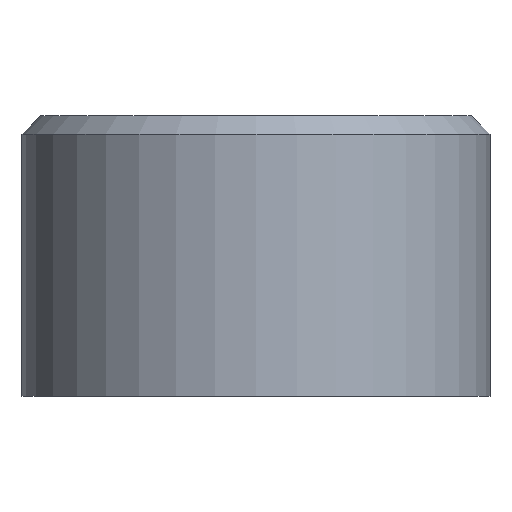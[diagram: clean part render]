
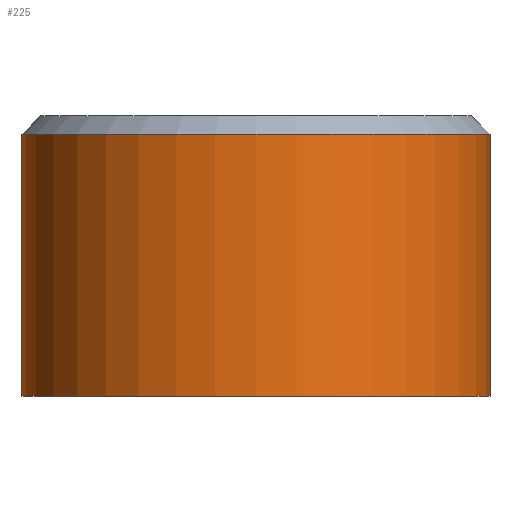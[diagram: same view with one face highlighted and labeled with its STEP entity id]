
A CAD part, front view. The second image highlights one B-rep face of the part: STEP entity #225.
In plain terms, the highlighted cylindrical face has radius 25 mm (diameter 50 mm), a full revolution.
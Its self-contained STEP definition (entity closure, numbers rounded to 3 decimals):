
#27=FACE_BOUND('',#77,.T.);
#34=B_SPLINE_CURVE_WITH_KNOTS('',3,(#384,#385,#386,#387,#388,#389,#390,
#391,#392,#393),.UNSPECIFIED.,.F.,.F.,(4,2,2,2,4),(0.794,0.992,
1.19,1.389,1.587),.UNSPECIFIED.);
#35=B_SPLINE_CURVE_WITH_KNOTS('',3,(#395,#396,#397,#398,#399,#400,#401,
#402,#403,#404,#405,#406,#407,#408,#409,#410,#411,#412,#413),
 .UNSPECIFIED.,.F.,.F.,(4,2,2,2,3,2,2,2,4),(2.381,2.579,
2.778,2.976,3.174,3.373,3.571,
3.77,3.968),.UNSPECIFIED.);
#36=B_SPLINE_CURVE_WITH_KNOTS('',3,(#414,#415,#416,#417,#418,#419,#420,
#421,#422,#423),.UNSPECIFIED.,.F.,.F.,(4,2,2,2,4),(1.587,1.786,
1.984,2.182,2.381),.UNSPECIFIED.);
#40=CYLINDRICAL_SURFACE('',#278,25.);
#58=FACE_OUTER_BOUND('',#76,.T.);
#76=EDGE_LOOP('',(#190,#191,#192,#193,#194));
#77=EDGE_LOOP('',(#195,#196,#197));
#91=LINE('',#450,#100);
#100=VECTOR('',#340,25.);
#110=CIRCLE('',#273,25.);
#112=CIRCLE('',#276,25.);
#113=CIRCLE('',#277,25.);
#120=VERTEX_POINT('',#382);
#121=VERTEX_POINT('',#383);
#122=VERTEX_POINT('',#394);
#127=VERTEX_POINT('',#439);
#129=VERTEX_POINT('',#444);
#130=VERTEX_POINT('',#446);
#139=EDGE_CURVE('',#120,#121,#34,.T.);
#140=EDGE_CURVE('',#122,#120,#35,.T.);
#141=EDGE_CURVE('',#121,#122,#36,.T.);
#149=EDGE_CURVE('',#127,#127,#110,.T.);
#152=EDGE_CURVE('',#129,#130,#112,.T.);
#153=EDGE_CURVE('',#130,#129,#113,.T.);
#154=EDGE_CURVE('',#130,#127,#91,.T.);
#190=ORIENTED_EDGE('',*,*,#152,.F.);
#191=ORIENTED_EDGE('',*,*,#153,.F.);
#192=ORIENTED_EDGE('',*,*,#154,.T.);
#193=ORIENTED_EDGE('',*,*,#149,.F.);
#194=ORIENTED_EDGE('',*,*,#154,.F.);
#195=ORIENTED_EDGE('',*,*,#139,.T.);
#196=ORIENTED_EDGE('',*,*,#141,.T.);
#197=ORIENTED_EDGE('',*,*,#140,.T.);
#225=ADVANCED_FACE('',(#58,#27),#40,.T.);
#273=AXIS2_PLACEMENT_3D('',#440,#327,#328);
#276=AXIS2_PLACEMENT_3D('',#447,#334,#335);
#277=AXIS2_PLACEMENT_3D('',#448,#336,#337);
#278=AXIS2_PLACEMENT_3D('',#449,#338,#339);
#327=DIRECTION('center_axis',(0.,0.,-1.));
#328=DIRECTION('ref_axis',(1.,0.,0.));
#334=DIRECTION('center_axis',(0.,0.,1.));
#335=DIRECTION('ref_axis',(-1.,0.,0.));
#336=DIRECTION('center_axis',(0.,0.,1.));
#337=DIRECTION('ref_axis',(-1.,0.,0.));
#338=DIRECTION('center_axis',(0.,0.,1.));
#339=DIRECTION('ref_axis',(1.,0.,0.));
#340=DIRECTION('',(0.,0.,-1.));
#382=CARTESIAN_POINT('',(0.,25.,25.25));
#383=CARTESIAN_POINT('',(-5.25,24.443,20.));
#384=CARTESIAN_POINT('Ctrl Pts',(0.,25.,25.25));
#385=CARTESIAN_POINT('Ctrl Pts',(-0.661,25.,25.25));
#386=CARTESIAN_POINT('Ctrl Pts',(-1.365,24.971,25.117));
#387=CARTESIAN_POINT('Ctrl Pts',(-2.658,24.867,24.581));
#388=CARTESIAN_POINT('Ctrl Pts',(-3.247,24.793,24.177));
#389=CARTESIAN_POINT('Ctrl Pts',(-4.177,24.653,23.247));
#390=CARTESIAN_POINT('Ctrl Pts',(-4.581,24.578,22.658));
#391=CARTESIAN_POINT('Ctrl Pts',(-5.117,24.472,21.365));
#392=CARTESIAN_POINT('Ctrl Pts',(-5.25,24.443,20.661));
#393=CARTESIAN_POINT('Ctrl Pts',(-5.25,24.443,20.));
#394=CARTESIAN_POINT('',(0.,25.,14.75));
#395=CARTESIAN_POINT('Ctrl Pts',(0.,25.,14.75));
#396=CARTESIAN_POINT('Ctrl Pts',(0.661,25.,14.75));
#397=CARTESIAN_POINT('Ctrl Pts',(1.365,24.971,14.883));
#398=CARTESIAN_POINT('Ctrl Pts',(2.658,24.867,15.419));
#399=CARTESIAN_POINT('Ctrl Pts',(3.247,24.793,15.823));
#400=CARTESIAN_POINT('Ctrl Pts',(4.177,24.653,16.753));
#401=CARTESIAN_POINT('Ctrl Pts',(4.581,24.578,17.342));
#402=CARTESIAN_POINT('Ctrl Pts',(5.117,24.472,18.635));
#403=CARTESIAN_POINT('Ctrl Pts',(5.25,24.443,19.339));
#404=CARTESIAN_POINT('Ctrl Pts',(5.25,24.443,20.));
#405=CARTESIAN_POINT('Ctrl Pts',(5.25,24.443,20.661));
#406=CARTESIAN_POINT('Ctrl Pts',(5.117,24.472,21.365));
#407=CARTESIAN_POINT('Ctrl Pts',(4.581,24.578,22.658));
#408=CARTESIAN_POINT('Ctrl Pts',(4.177,24.653,23.247));
#409=CARTESIAN_POINT('Ctrl Pts',(3.247,24.793,24.177));
#410=CARTESIAN_POINT('Ctrl Pts',(2.658,24.867,24.581));
#411=CARTESIAN_POINT('Ctrl Pts',(1.365,24.971,25.117));
#412=CARTESIAN_POINT('Ctrl Pts',(0.661,25.,25.25));
#413=CARTESIAN_POINT('Ctrl Pts',(0.,25.,25.25));
#414=CARTESIAN_POINT('Ctrl Pts',(-5.25,24.443,20.));
#415=CARTESIAN_POINT('Ctrl Pts',(-5.25,24.443,19.339));
#416=CARTESIAN_POINT('Ctrl Pts',(-5.117,24.472,18.635));
#417=CARTESIAN_POINT('Ctrl Pts',(-4.581,24.578,17.342));
#418=CARTESIAN_POINT('Ctrl Pts',(-4.177,24.653,16.753));
#419=CARTESIAN_POINT('Ctrl Pts',(-3.247,24.793,15.823));
#420=CARTESIAN_POINT('Ctrl Pts',(-2.658,24.867,15.419));
#421=CARTESIAN_POINT('Ctrl Pts',(-1.365,24.971,14.883));
#422=CARTESIAN_POINT('Ctrl Pts',(-0.661,25.,14.75));
#423=CARTESIAN_POINT('Ctrl Pts',(0.,25.,14.75));
#439=CARTESIAN_POINT('',(-25.,0.,0.));
#440=CARTESIAN_POINT('Origin',(0.,0.,0.));
#444=CARTESIAN_POINT('',(25.,0.,28.));
#446=CARTESIAN_POINT('',(-25.,0.,28.));
#447=CARTESIAN_POINT('Origin',(0.,0.,28.));
#448=CARTESIAN_POINT('Origin',(0.,0.,28.));
#449=CARTESIAN_POINT('Origin',(0.,0.,15.));
#450=CARTESIAN_POINT('',(-25.,0.,15.));
